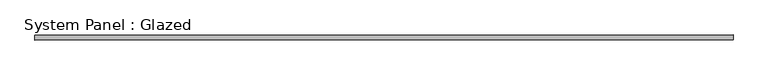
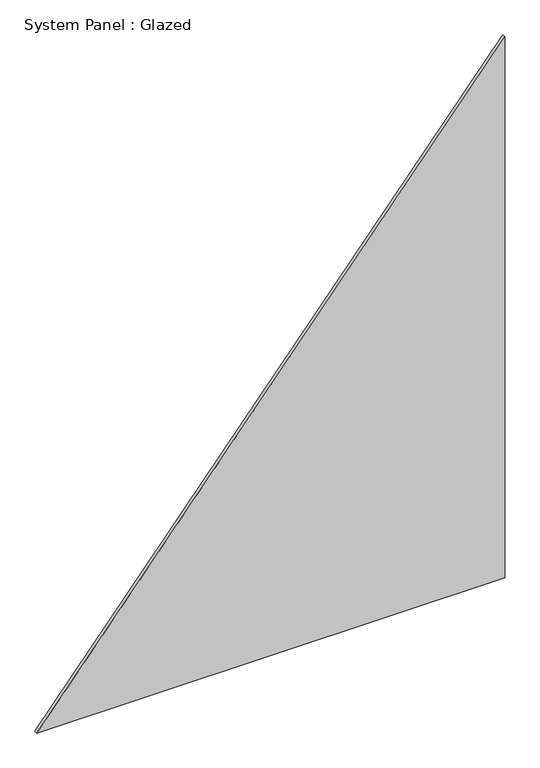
"""IFC4 building model written with IfcOpenShell, lengths in millimetres: plate geometry, System Panel : Glazed."""

import ifcopenshell
import ifcopenshell.guid

model = None  # the IFC model being written
_history = None  # IfcOwnerHistory: only IFC2X3 demands one
_inside = {}  # id of a spatial element -> (the spatial element, [elements in it])
_under = {}  # id of a project, library or spatial element -> (it, [spatial elements below it])
_declared = {}  # id of a project -> (the project, [libraries it declares])
_typed = {}  # id of a type object -> (the type object, [elements of that type])
_made_of = {}  # id of a material, layer set ... -> (it, [elements and type objects made of it])


def new_model(schema):
    """Start an empty IFC model of exactly this schema.

    Asked for "IFC4X3", IfcOpenShell would pick the latest addendum, in which some entities
    have other attributes; the version numbers below select the first issue.
    IFC2X3 requires an IfcOwnerHistory on every rooted entity: one is made here for all.
    """
    global model, _history
    if schema == "IFC4X3":
        model = ifcopenshell.file(schema_version=(4, 3, 0, 0))
    else:
        model = ifcopenshell.file(schema=schema)
    _inside.clear()
    _under.clear()
    _declared.clear()
    _typed.clear()
    _made_of.clear()
    _history = None
    if model.schema == "IFC2X3":
        org = make("IfcOrganization", Name="unknown")
        user = make(
            "IfcPersonAndOrganization",
            ThePerson=make("IfcPerson", FamilyName="unknown"),
            TheOrganization=org,
        )
        app = make(
            "IfcApplication",
            ApplicationDeveloper=org,
            Version="unknown",
            ApplicationFullName="unknown",
            ApplicationIdentifier="unknown",
        )
        _history = make(
            "IfcOwnerHistory",
            OwningUser=user,
            OwningApplication=app,
            ChangeAction="ADDED",
            CreationDate=0,
        )
    return model


def make(cls, **values):
    """One entity of the class cls with the attributes given. An attribute that is None is left unset."""
    return model.create_entity(
        cls, **{name: value for name, value in values.items() if value is not None}
    )


def rooted(cls, **values):
    """An entity with a GlobalId (a new one), such as an element, a storey or a relation."""
    return make(cls, GlobalId=ifcopenshell.guid.new(), OwnerHistory=_history, **values)


def si_unit(unit_type, name, prefix=None):
    """IfcSIUnit, for example si_unit("LENGTHUNIT", "METRE", prefix="MILLI")."""
    return make("IfcSIUnit", UnitType=unit_type, Prefix=prefix, Name=name)


def assignment(units):
    """IfcUnitAssignment: the units of a project."""
    return None if units is None else make("IfcUnitAssignment", Units=units)


def point(xyz):
    """IfcCartesianPoint."""
    return None if xyz is None else make("IfcCartesianPoint", Coordinates=xyz)


def direction(xyz):
    """IfcDirection."""
    return None if xyz is None else make("IfcDirection", DirectionRatios=xyz)


def frame(location, z_axis=None, x_axis=None):
    """IfcAxis2Placement3D, a coordinate frame: its origin and axes. An axis left out is left unset."""
    return make(
        "IfcAxis2Placement3D",
        Location=point(location),
        Axis=direction(z_axis),
        RefDirection=direction(x_axis),
    )


def origin():
    """The frame at (0, 0, 0) with its axes left unset."""
    return frame((0.0, 0.0, 0.0))


def place(relative_to, where):
    """IfcLocalPlacement: puts the frame where relative to a parent placement (None: the world)."""
    return make(
        "IfcLocalPlacement", PlacementRelTo=relative_to, RelativePlacement=where
    )


def context(
    kind, dimensions, precision=None, world=None, true_north=None, identifier=None
):
    """IfcGeometricRepresentationContext, for example the 3D "Model" context."""
    return make(
        "IfcGeometricRepresentationContext",
        ContextIdentifier=identifier,
        ContextType=kind,
        CoordinateSpaceDimension=dimensions,
        Precision=precision,
        WorldCoordinateSystem=world,
        TrueNorth=true_north,
    )


def project(units=None, contexts=None):
    """IfcProject with its units and contexts."""
    return rooted(
        "IfcProject",
        Name="project",
        RepresentationContexts=contexts,
        UnitsInContext=assignment(units),
    )


def spatial(cls, under=None, at=None, **own):
    """A site, building, storey or space (cls), placed at a placement, below another one or the project."""
    s = rooted(cls, ObjectPlacement=at, **own)
    if under is not None:
        _under.setdefault(under.id(), (under, []))[1].append(s)
    return s


def polyline(points):
    """IfcPolyline through the points."""
    return make("IfcPolyline", Points=[point(p) for p in points])


def outline(outer, holes=None, kind="AREA"):
    """IfcArbitraryClosedProfileDef: a profile drawn as a closed curve; with holes, ...WithVoids."""
    if holes is None:
        return make("IfcArbitraryClosedProfileDef", ProfileType=kind, OuterCurve=outer)
    return make(
        "IfcArbitraryProfileDefWithVoids",
        ProfileType=kind,
        OuterCurve=outer,
        InnerCurves=holes,
    )


def extrude(swept, where, along, depth):
    """IfcExtrudedAreaSolid: the profile swept, set in the frame where, extruded along a direction by depth."""
    return make(
        "IfcExtrudedAreaSolid",
        SweptArea=swept,
        Position=where,
        ExtrudedDirection=direction(along),
        Depth=depth,
    )


def shape(context_of_items, identifier, shape_type, items):
    """IfcShapeRepresentation: the items that make up one representation, for example the "Body"."""
    return make(
        "IfcShapeRepresentation",
        ContextOfItems=context_of_items,
        RepresentationIdentifier=identifier,
        RepresentationType=shape_type,
        Items=items,
    )


def source(mapping_origin, context_of_items, identifier, shape_type, items):
    """IfcRepresentationMap: a shape defined once, which mapped items show again and again."""
    return make(
        "IfcRepresentationMap",
        MappingOrigin=mapping_origin,
        MappedRepresentation=shape(context_of_items, identifier, shape_type, items),
    )


def transform(
    local_origin,
    x_axis=None,
    y_axis=None,
    z_axis=None,
    scale=None,
    scale2=None,
    scale3=None,
    uniform=True,
):
    """IfcCartesianTransformationOperator3D, or its non-uniform kind. x_axis, y_axis, z_axis: its Axis1, 2, 3."""
    if uniform:
        return make(
            "IfcCartesianTransformationOperator3D",
            Axis1=direction(x_axis),
            Axis2=direction(y_axis),
            LocalOrigin=point(local_origin),
            Scale=scale,
            Axis3=direction(z_axis),
        )
    return make(
        "IfcCartesianTransformationOperator3DnonUniform",
        Axis1=direction(x_axis),
        Axis2=direction(y_axis),
        LocalOrigin=point(local_origin),
        Scale=scale,
        Axis3=direction(z_axis),
        Scale2=scale2,
        Scale3=scale3,
    )


def mapped(mapping_source, mapping_target):
    """IfcMappedItem: shows the shape of a source again, moved by a transform."""
    return make(
        "IfcMappedItem", MappingSource=mapping_source, MappingTarget=mapping_target
    )


def made_of(thing, what):
    """Note that an element or type object is made of a material, layer set ...; save() writes the relation."""
    if what is not None:
        _made_of.setdefault(what.id(), (what, []))[1].append(thing)
    return thing


def element(
    cls,
    number,
    at=None,
    inside=None,
    cuts=None,
    type_object=None,
    material=None,
    context=None,
    identifier="Body",
    shape_type=None,
    held_by="IfcProductDefinitionShape",
    body=None,
    shapes=None,
    **own,
):
    """One element of the class cls, such as IfcWall. Its Tag is "e" and its number.

    at: its placement. inside: the storey or other place that contains it. cuts: it is an
    opening in that element (IfcRelVoidsElement). A single representation is given by context,
    identifier, shape_type and body (its items); several are given by shapes. held_by: the class
    of the entity that holds the representations. save() writes the other relations.
    """
    e = rooted(cls, Tag="e%d" % number, ObjectPlacement=at, **own)
    if body is not None:
        shapes = [shape(context, identifier, shape_type, body)]
    if shapes is not None:
        e.Representation = make(held_by, Representations=shapes)
    if inside is not None:
        _inside.setdefault(inside.id(), (inside, []))[1].append(e)
    if cuts is not None:
        rooted(
            "IfcRelVoidsElement", RelatingBuildingElement=cuts, RelatedOpeningElement=e
        )
    if type_object is not None:
        _typed.setdefault(type_object.id(), (type_object, []))[1].append(e)
    return made_of(e, material)


def aggregate(whole, parts):
    """IfcRelAggregates: a whole, such as a stair, and the parts it consists of."""
    return rooted("IfcRelAggregates", RelatingObject=whole, RelatedObjects=parts)


def save(model, path):
    """Write the relations noted so far, then the file.

    IfcRelAggregates (storeys below a building ...), IfcRelContainedInSpatialStructure (elements
    in a storey), IfcRelDefinesByType, IfcRelAssociatesMaterial and IfcRelDeclares: one each for
    every whole, place, type object, material and project.
    """
    for whole, parts in _under.values():
        aggregate(whole, parts)
    for where, things in _inside.values():
        rooted(
            "IfcRelContainedInSpatialStructure",
            RelatedElements=things,
            RelatingStructure=where,
        )
    for kind, things in _typed.values():
        rooted("IfcRelDefinesByType", RelatedObjects=things, RelatingType=kind)
    for what, things in _made_of.values():
        rooted("IfcRelAssociatesMaterial", RelatedObjects=things, RelatingMaterial=what)
    for by, libraries in _declared.values():
        rooted("IfcRelDeclares", RelatingContext=by, RelatedDefinitions=libraries)
    model.write(path)


def system_panel_glazed_2f817a3c(model_context):
    return source(origin(), model_context, "Body", "SweptSolid", [
        extrude(outline(polyline([(0.0, -696.4543102), (0.0, 696.4543102), (1700.4274483, 696.4543102), (0.0, -696.4543102)])), frame((0.0, -5.0, 0.0), z_axis=(0.0, 1.0, 0.0), x_axis=(0.0, 0.0, 1.0)), (0.0, 0.0, 1.0), 10.0),
    ])


if __name__ == "__main__":
    model = new_model("IFC4")
    model_context = context("Model", 3, world=origin())
    ifc_project = project(units=[si_unit("LENGTHUNIT", "METRE", prefix="MILLI")], contexts=[model_context])
    site = spatial("IfcSite", under=ifc_project)
    building = spatial("IfcBuilding", under=site)
    placement = place(None, origin())
    system_panel_glazed_shape = system_panel_glazed_2f817a3c(model_context)
    element("IfcPlate", 1, ObjectType="System Panel : Glazed", at=placement, inside=building, context=model_context, shape_type="MappedRepresentation", body=[
        mapped(system_panel_glazed_shape, transform((0.0, 0.0, 0.0), x_axis=(1.0, 0.0, 0.0), y_axis=(0.0, 1.0, 0.0), z_axis=(0.0, 0.0, 1.0))),
    ])
    save(model, "model.ifc")
